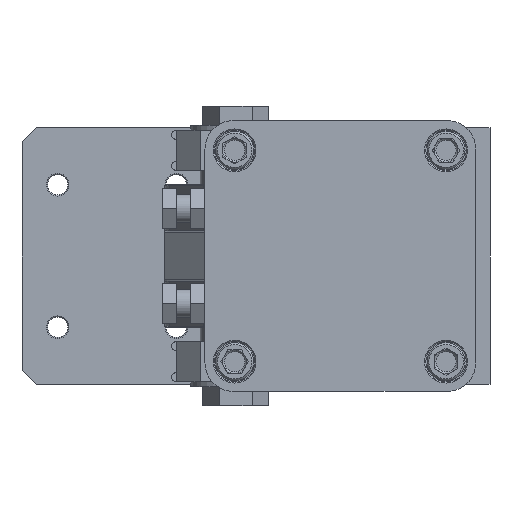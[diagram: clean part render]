
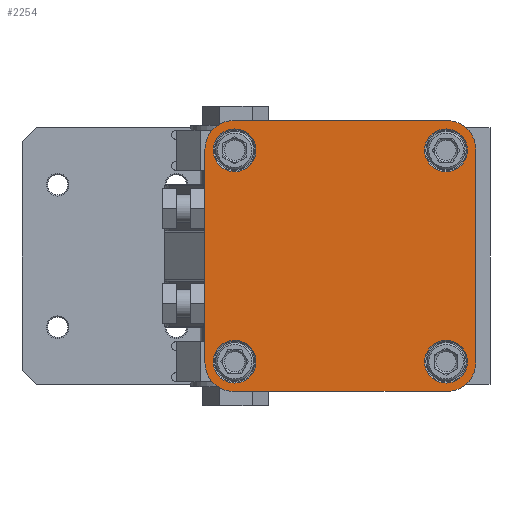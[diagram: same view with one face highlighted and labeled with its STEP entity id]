
A CAD part, front view. The second image highlights one B-rep face of the part: STEP entity #2254.
In plain terms, the highlighted planar face has unit normal (0, -1, 0).
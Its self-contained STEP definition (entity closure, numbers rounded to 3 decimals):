
#2254=ADVANCED_FACE('',(#6473,#6474,#6475,#6476,#6477),#2901,.F.);
#2901=PLANE('',#17787);
#4133=LINE('',#27420,#5366);
#4134=LINE('',#27425,#5367);
#4135=LINE('',#27429,#5368);
#4136=LINE('',#27433,#5369);
#5366=VECTOR('',#22413,1.);
#5367=VECTOR('',#22416,1.);
#5368=VECTOR('',#22419,1.);
#5369=VECTOR('',#22422,1.);
#6473=FACE_BOUND('',#8126,.T.);
#6474=FACE_BOUND('',#8127,.T.);
#6475=FACE_BOUND('',#8128,.T.);
#6476=FACE_BOUND('',#8129,.T.);
#6477=FACE_BOUND('',#8130,.T.);
#8126=EDGE_LOOP('',(#11964,#11965,#11966,#11967,#11968,#11969,#11970,#11971));
#8127=EDGE_LOOP('',(#11972));
#8128=EDGE_LOOP('',(#11973));
#8129=EDGE_LOOP('',(#11974));
#8130=EDGE_LOOP('',(#11975));
#11964=ORIENTED_EDGE('',*,*,#15402,.F.);
#11965=ORIENTED_EDGE('',*,*,#15403,.T.);
#11966=ORIENTED_EDGE('',*,*,#15404,.F.);
#11967=ORIENTED_EDGE('',*,*,#15405,.T.);
#11968=ORIENTED_EDGE('',*,*,#15406,.F.);
#11969=ORIENTED_EDGE('',*,*,#15407,.T.);
#11970=ORIENTED_EDGE('',*,*,#15408,.F.);
#11971=ORIENTED_EDGE('',*,*,#15409,.T.);
#11972=ORIENTED_EDGE('',*,*,#15410,.T.);
#11973=ORIENTED_EDGE('',*,*,#15401,.T.);
#11974=ORIENTED_EDGE('',*,*,#15411,.T.);
#11975=ORIENTED_EDGE('',*,*,#15412,.T.);
#13474=VERTEX_POINT('',#27418);
#13475=VERTEX_POINT('',#27421);
#13476=VERTEX_POINT('',#27422);
#13477=VERTEX_POINT('',#27424);
#13478=VERTEX_POINT('',#27426);
#13479=VERTEX_POINT('',#27428);
#13480=VERTEX_POINT('',#27430);
#13481=VERTEX_POINT('',#27432);
#13482=VERTEX_POINT('',#27434);
#13483=VERTEX_POINT('',#27437);
#13484=VERTEX_POINT('',#27439);
#13485=VERTEX_POINT('',#27441);
#15401=EDGE_CURVE('',#13474,#13474,#16077,.T.);
#15402=EDGE_CURVE('',#13475,#13476,#4133,.T.);
#15403=EDGE_CURVE('',#13475,#13477,#16078,.T.);
#15404=EDGE_CURVE('',#13478,#13477,#4134,.T.);
#15405=EDGE_CURVE('',#13478,#13479,#16079,.T.);
#15406=EDGE_CURVE('',#13480,#13479,#4135,.T.);
#15407=EDGE_CURVE('',#13480,#13481,#16080,.T.);
#15408=EDGE_CURVE('',#13482,#13481,#4136,.T.);
#15409=EDGE_CURVE('',#13482,#13476,#16081,.T.);
#15410=EDGE_CURVE('',#13483,#13483,#16082,.T.);
#15411=EDGE_CURVE('',#13484,#13484,#16083,.T.);
#15412=EDGE_CURVE('',#13485,#13485,#16084,.T.);
#16077=CIRCLE('',#17778,9.);
#16078=CIRCLE('',#17780,12.);
#16079=CIRCLE('',#17781,12.);
#16080=CIRCLE('',#17782,12.);
#16081=CIRCLE('',#17783,12.);
#16082=CIRCLE('',#17784,9.);
#16083=CIRCLE('',#17785,9.);
#16084=CIRCLE('',#17786,9.);
#17778=AXIS2_PLACEMENT_3D('',#27417,#22409,#22410);
#17780=AXIS2_PLACEMENT_3D('',#27423,#22414,#22415);
#17781=AXIS2_PLACEMENT_3D('',#27427,#22417,#22418);
#17782=AXIS2_PLACEMENT_3D('',#27431,#22420,#22421);
#17783=AXIS2_PLACEMENT_3D('',#27435,#22423,#22424);
#17784=AXIS2_PLACEMENT_3D('',#27436,#22425,#22426);
#17785=AXIS2_PLACEMENT_3D('',#27438,#22427,#22428);
#17786=AXIS2_PLACEMENT_3D('',#27440,#22429,#22430);
#17787=AXIS2_PLACEMENT_3D('',#27442,#22431,#22432);
#22409=DIRECTION('',(0.,1.,0.));
#22410=DIRECTION('',(-1.,0.,0.));
#22413=DIRECTION('',(1.,0.,0.));
#22414=DIRECTION('',(0.,-1.,0.));
#22415=DIRECTION('',(0.,0.,1.));
#22416=DIRECTION('',(0.,0.,1.));
#22417=DIRECTION('',(0.,-1.,0.));
#22418=DIRECTION('',(-1.,0.,0.));
#22419=DIRECTION('',(-1.,0.,0.));
#22420=DIRECTION('',(0.,-1.,0.));
#22421=DIRECTION('',(0.,0.,-1.));
#22422=DIRECTION('',(0.,0.,-1.));
#22423=DIRECTION('',(0.,-1.,0.));
#22424=DIRECTION('',(1.,0.,0.));
#22425=DIRECTION('',(0.,1.,0.));
#22426=DIRECTION('',(1.,0.,0.));
#22427=DIRECTION('',(0.,1.,0.));
#22428=DIRECTION('',(1.,0.,0.));
#22429=DIRECTION('',(0.,1.,0.));
#22430=DIRECTION('',(1.,0.,0.));
#22431=DIRECTION('',(0.,1.,0.));
#22432=DIRECTION('',(-1.,0.,0.));
#27417=CARTESIAN_POINT('',(88.5,-284.5,42.5));
#27418=CARTESIAN_POINT('',(79.5,-284.5,42.5));
#27420=CARTESIAN_POINT('',(-1.,-284.5,55.));
#27421=CARTESIAN_POINT('',(-1.,-284.5,55.));
#27422=CARTESIAN_POINT('',(89.,-284.5,55.));
#27423=CARTESIAN_POINT('',(-1.,-284.5,43.));
#27424=CARTESIAN_POINT('',(-13.,-284.5,43.));
#27425=CARTESIAN_POINT('',(-13.,-284.5,-47.));
#27426=CARTESIAN_POINT('',(-13.,-284.5,-47.));
#27427=CARTESIAN_POINT('',(-1.,-284.5,-47.));
#27428=CARTESIAN_POINT('',(-1.,-284.5,-59.));
#27429=CARTESIAN_POINT('',(89.,-284.5,-59.));
#27430=CARTESIAN_POINT('',(89.,-284.5,-59.));
#27431=CARTESIAN_POINT('',(89.,-284.5,-47.));
#27432=CARTESIAN_POINT('',(101.,-284.5,-47.));
#27433=CARTESIAN_POINT('',(101.,-284.5,43.));
#27434=CARTESIAN_POINT('',(101.,-284.5,43.));
#27435=CARTESIAN_POINT('',(89.,-284.5,43.));
#27436=CARTESIAN_POINT('',(-0.5,-284.5,42.5));
#27437=CARTESIAN_POINT('',(8.5,-284.5,42.5));
#27438=CARTESIAN_POINT('',(88.5,-284.5,-46.5));
#27439=CARTESIAN_POINT('',(97.5,-284.5,-46.5));
#27440=CARTESIAN_POINT('',(-0.5,-284.5,-46.5));
#27441=CARTESIAN_POINT('',(8.5,-284.5,-46.5));
#27442=CARTESIAN_POINT('',(44.,-284.5,-2.));
